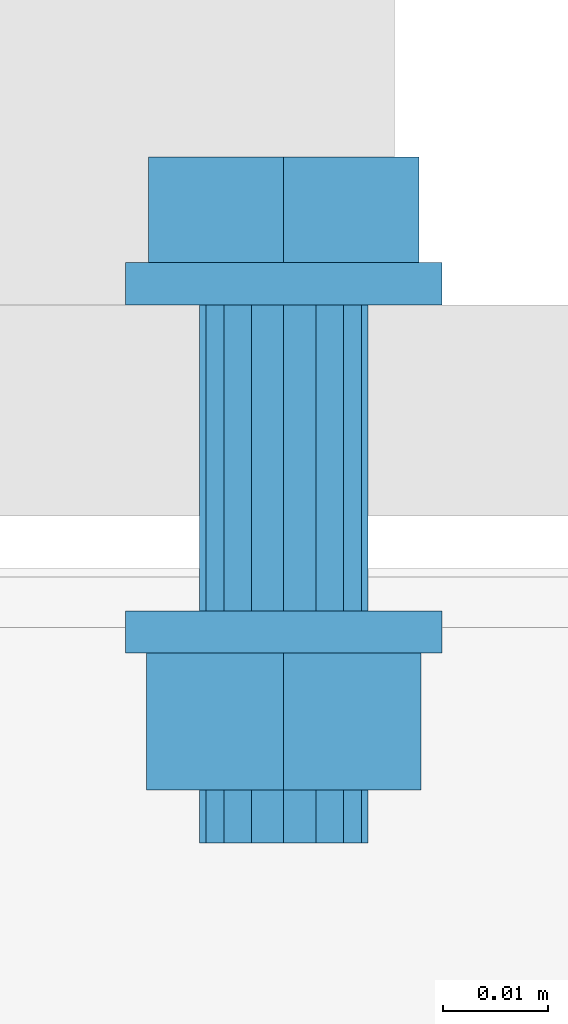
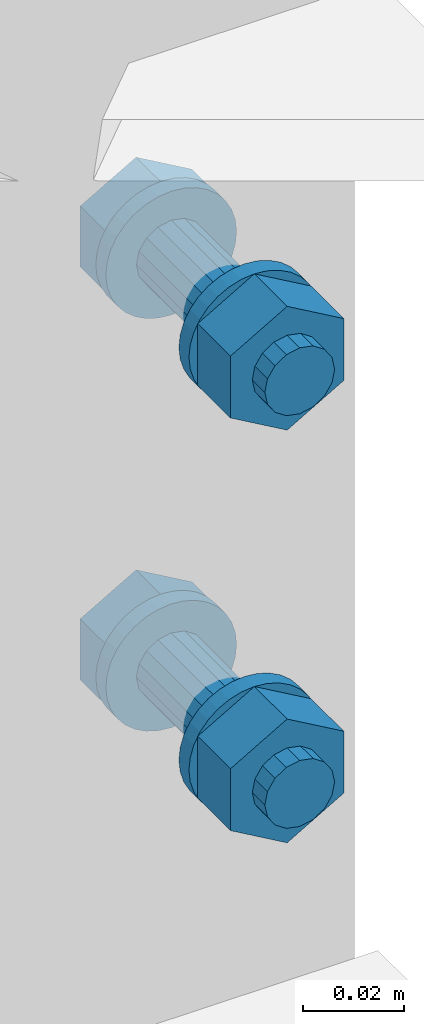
# One storey, part 9 of 21: 2 mechanical fasteners.
"""IFC4X3_ADD2 building model written with IfcOpenShell, lengths in millimetres."""

from ifc_helpers import new_model, entity, si_unit, converted_unit, derived_unit, direction, frame, origin, place, context, project, spatial, faceted_brep, element, save


model = new_model("IFC4X3_ADD2")

# Units and contexts
model_context = context("Model", 3, precision=0.01, world=origin(), true_north=direction((6.123233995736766e-17, 1.0)))
plan_context = context("Plan", 3, precision=0.01, world=origin(), true_north=direction((6.123233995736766e-17, 1.0)))
ifc_project = project(units=[si_unit("LENGTHUNIT", "METRE", prefix="MILLI"), converted_unit("PLANEANGLEUNIT", "DEGREE", entity("IfcPlaneAngleMeasure", 0.017453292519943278), si_unit("PLANEANGLEUNIT", "RADIAN"), dimensions=[0, 0, 0, 0, 0, 0, 0]), si_unit("AREAUNIT", "SQUARE_METRE"), si_unit("VOLUMEUNIT", "CUBIC_METRE"), derived_unit("THERMALTRANSMITTANCEUNIT", [(si_unit("MASSUNIT", "GRAM", prefix="KILO"), 1), (si_unit("THERMODYNAMICTEMPERATUREUNIT", "KELVIN"), -1), (si_unit("TIMEUNIT", "SECOND"), -3)]), derived_unit("USERDEFINED", [(si_unit("MASSUNIT", "GRAM", prefix="KILO"), 1), (si_unit("THERMODYNAMICTEMPERATUREUNIT", "KELVIN"), -1), (si_unit("TIMEUNIT", "SECOND"), -2)]), derived_unit("THERMALRESISTANCEUNIT", [(si_unit("MASSUNIT", "GRAM", prefix="KILO"), -1), (si_unit("TIMEUNIT", "SECOND"), 3), (si_unit("THERMODYNAMICTEMPERATUREUNIT", "KELVIN"), 1)]), si_unit("MASSUNIT", "GRAM", prefix="KILO"), derived_unit("MOMENTOFINERTIAUNIT", [(si_unit("LENGTHUNIT", "METRE"), 4)]), derived_unit("LINEARFORCEUNIT", [(si_unit("MASSUNIT", "GRAM", prefix="KILO"), 1), (si_unit("TIMEUNIT", "SECOND"), -2)]), derived_unit("WARPINGCONSTANTUNIT", [(si_unit("LENGTHUNIT", "METRE"), 6)]), si_unit("PRESSUREUNIT", "PASCAL"), derived_unit("MASSDENSITYUNIT", [(si_unit("MASSUNIT", "GRAM", prefix="KILO"), 1), (si_unit("LENGTHUNIT", "METRE"), -3)]), derived_unit("MODULUSOFELASTICITYUNIT", [(si_unit("MASSUNIT", "GRAM", prefix="KILO"), 1), (si_unit("TIMEUNIT", "SECOND"), -2), (si_unit("LENGTHUNIT", "METRE"), -1)]), derived_unit("THERMALEXPANSIONCOEFFICIENTUNIT", [(si_unit("THERMODYNAMICTEMPERATUREUNIT", "KELVIN"), -1)]), derived_unit("VAPORPERMEABILITYUNIT", [(si_unit("LENGTHUNIT", "METRE"), -1), (si_unit("TIMEUNIT", "SECOND"), 1)]), derived_unit("USERDEFINED", [(si_unit("MASSUNIT", "GRAM", prefix="KILO"), 1), (si_unit("TIMEUNIT", "SECOND"), -3), (si_unit("LENGTHUNIT", "METRE"), 3), (si_unit("ELECTRICCURRENTUNIT", "AMPERE"), -2)]), derived_unit("SPECIFICHEATCAPACITYUNIT", [(si_unit("THERMODYNAMICTEMPERATUREUNIT", "KELVIN"), -1), (si_unit("TIMEUNIT", "SECOND"), -2), (si_unit("LENGTHUNIT", "METRE"), 2)]), derived_unit("THERMALCONDUCTANCEUNIT", [(si_unit("MASSUNIT", "GRAM", prefix="KILO"), 1), (si_unit("THERMODYNAMICTEMPERATUREUNIT", "KELVIN"), -1), (si_unit("TIMEUNIT", "SECOND"), -3), (si_unit("LENGTHUNIT", "METRE"), 1)])], contexts=[model_context, plan_context])

# Site, building, storey
site_placement = place(None, origin())
site = spatial("IfcSite", under=ifc_project, at=site_placement, Name="Default", CompositionType="ELEMENT")
building_placement = place(site_placement, origin())
building = spatial("IfcBuilding", under=site, at=building_placement, Name="Complex structure", CompositionType="ELEMENT")
storey_placement = place(building_placement, frame((0.0, 0.0, 3000.0)))
storey = spatial("IfcBuildingStorey", under=building, at=storey_placement, Name="Level 01", CompositionType="ELEMENT", Elevation=3000.0)

# Mechanical fasteners
mechanical_fastener_1_placement = place(storey_placement, frame((0.0, 0.0, -3000.0)))
element("IfcMechanicalFastener", 1, at=mechanical_fastener_1_placement, inside=storey, ObjectType="Bolt#7", NominalDiameter=16.0, NominalLength=55.0, context=model_context, shape_type="Brep", body=[
    faceted_brep([(-13080.721550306, -1182.866703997, 3703.0), (-13080.721550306, -1186.866703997, 3703.0), (-13081.0097711, -1186.866703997, 3700.07364517), (-13081.0097711, -1182.866703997, 3700.07364517), (-13081.863357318, -1186.866703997, 3697.259748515), (-13081.863357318, -1182.866703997, 3697.259748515), (-13083.249506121, -1186.866703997, 3694.666446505), (-13083.249506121, -1182.866703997, 3694.666446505), (-13085.114948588, -1186.866703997, 3692.393398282), (-13085.114948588, -1182.866703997, 3692.393398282), (-13087.387996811, -1186.866703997, 3690.527955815), (-13087.387996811, -1182.866703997, 3690.527955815), (-13089.98129882, -1186.866703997, 3689.141807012), (-13089.98129882, -1182.866703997, 3689.141807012), (-13092.795195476, -1186.866703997, 3688.288220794), (-13092.795195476, -1182.866703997, 3688.288220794), (-13095.721550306, -1186.866703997, 3688.0), (-13095.721550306, -1182.866703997, 3688.0), (-13098.647905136, -1186.866703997, 3688.288220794), (-13098.647905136, -1182.866703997, 3688.288220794), (-13101.461801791, -1186.866703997, 3689.141807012), (-13101.461801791, -1182.866703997, 3689.141807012), (-13104.055103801, -1186.866703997, 3690.527955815), (-13104.055103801, -1182.866703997, 3690.527955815), (-13106.328152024, -1186.866703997, 3692.393398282), (-13106.328152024, -1182.866703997, 3692.393398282), (-13108.19359449, -1186.866703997, 3694.666446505), (-13108.19359449, -1182.866703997, 3694.666446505), (-13109.579743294, -1186.866703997, 3697.259748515), (-13109.579743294, -1182.866703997, 3697.259748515), (-13110.433329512, -1186.866703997, 3700.07364517), (-13110.433329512, -1182.866703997, 3700.07364517), (-13110.721550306, -1186.866703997, 3703.0), (-13110.721550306, -1182.866703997, 3703.0), (-13110.433329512, -1186.866703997, 3705.92635483), (-13110.433329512, -1182.866703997, 3705.92635483), (-13109.579743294, -1186.866703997, 3708.740251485), (-13109.579743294, -1182.866703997, 3708.740251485), (-13108.19359449, -1186.866703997, 3711.333553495), (-13108.19359449, -1182.866703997, 3711.333553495), (-13106.328152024, -1186.866703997, 3713.606601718), (-13106.328152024, -1182.866703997, 3713.606601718), (-13104.055103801, -1186.866703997, 3715.472044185), (-13104.055103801, -1182.866703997, 3715.472044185), (-13101.461801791, -1186.866703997, 3716.858192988), (-13101.461801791, -1182.866703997, 3716.858192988), (-13098.647905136, -1186.866703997, 3717.711779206), (-13098.647905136, -1182.866703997, 3717.711779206), (-13095.721550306, -1186.866703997, 3718.0), (-13095.721550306, -1182.866703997, 3718.0), (-13092.795195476, -1186.866703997, 3717.711779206), (-13092.795195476, -1182.866703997, 3717.711779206), (-13089.98129882, -1186.866703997, 3716.858192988), (-13089.98129882, -1182.866703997, 3716.858192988), (-13087.387996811, -1186.866703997, 3715.472044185), (-13087.387996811, -1182.866703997, 3715.472044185), (-13085.114948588, -1186.866703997, 3713.606601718), (-13085.114948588, -1182.866703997, 3713.606601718), (-13083.249506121, -1186.866703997, 3711.333553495), (-13083.249506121, -1182.866703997, 3711.333553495), (-13081.863357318, -1186.866703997, 3708.740251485), (-13081.863357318, -1182.866703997, 3708.740251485), (-13081.0097711, -1186.866703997, 3705.92635483), (-13081.0097711, -1182.866703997, 3705.92635483)], [[[0, 1, 2, 3]], [[3, 2, 4, 5]], [[5, 4, 6, 7]], [[7, 6, 8, 9]], [[9, 8, 10, 11]], [[11, 10, 12, 13]], [[13, 12, 14, 15]], [[15, 14, 16, 17]], [[17, 16, 18, 19]], [[19, 18, 20, 21]], [[21, 20, 22, 23]], [[23, 22, 24, 25]], [[25, 24, 26, 27]], [[27, 26, 28, 29]], [[29, 28, 30, 31]], [[31, 30, 32, 33]], [[33, 32, 34, 35]], [[35, 34, 36, 37]], [[37, 36, 38, 39]], [[39, 38, 40, 41]], [[41, 40, 42, 43]], [[43, 42, 44, 45]], [[45, 44, 46, 47]], [[47, 46, 48, 49]], [[49, 48, 50, 51]], [[51, 50, 52, 53]], [[53, 52, 54, 55]], [[55, 54, 56, 57]], [[57, 56, 58, 59]], [[59, 58, 60, 61]], [[61, 60, 62, 63]], [[63, 62, 1, 0]], [[0, 3, 5, 7, 9, 11, 13, 15, 17, 19, 21, 23, 25, 27, 29, 31, 33, 35, 37, 39, 41, 43, 45, 47, 49, 51, 53, 55, 57, 59, 61, 63]], [[1, 62, 60, 58, 56, 54, 52, 50, 48, 46, 44, 42, 40, 38, 36, 34, 32, 30, 28, 26, 24, 22, 20, 18, 16, 14, 12, 10, 8, 6, 4, 2]]]),
    faceted_brep([(-13108.521405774, -1182.866703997, 3695.61), (-13108.521405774, -1172.866703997, 3695.61), (-13095.721550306, -1172.866703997, 3688.22), (-13095.721550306, -1182.866703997, 3688.22), (-13082.921694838, -1172.866703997, 3695.61), (-13082.921694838, -1182.866703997, 3695.61), (-13082.921694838, -1172.866703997, 3710.39), (-13082.921694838, -1182.866703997, 3710.39), (-13095.721550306, -1172.866703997, 3717.78), (-13095.721550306, -1182.866703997, 3717.78), (-13108.521405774, -1172.866703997, 3710.39), (-13108.521405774, -1182.866703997, 3710.39)], [[[0, 1, 2, 3]], [[3, 2, 4, 5]], [[5, 4, 6, 7]], [[7, 6, 8, 9]], [[9, 8, 10, 11]], [[11, 10, 1, 0]], [[4, 2, 1, 10, 8, 6]], [[0, 3, 5, 7, 9, 11]]]),
    faceted_brep([(-13087.721550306, -1186.866703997, 3703.0), (-13087.721550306, -1215.866703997, 3703.0), (-13088.330514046, -1215.866703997, 3699.938532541), (-13088.330514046, -1186.866703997, 3699.938532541), (-13090.064696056, -1215.866703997, 3697.343145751), (-13090.064696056, -1186.866703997, 3697.343145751), (-13092.660082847, -1215.866703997, 3695.60896374), (-13092.660082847, -1186.866703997, 3695.60896374), (-13095.721550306, -1215.866703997, 3695.0), (-13095.721550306, -1186.866703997, 3695.0), (-13098.783017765, -1215.866703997, 3695.60896374), (-13098.783017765, -1186.866703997, 3695.60896374), (-13101.378404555, -1215.866703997, 3697.343145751), (-13101.378404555, -1186.866703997, 3697.343145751), (-13103.112586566, -1215.866703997, 3699.938532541), (-13103.112586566, -1186.866703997, 3699.938532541), (-13103.721550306, -1215.866703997, 3703.0), (-13103.721550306, -1186.866703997, 3703.0), (-13103.112586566, -1215.866703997, 3706.061467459), (-13103.112586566, -1186.866703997, 3706.061467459), (-13101.378404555, -1215.866703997, 3708.656854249), (-13101.378404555, -1186.866703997, 3708.656854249), (-13098.783017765, -1215.866703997, 3710.39103626), (-13098.783017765, -1186.866703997, 3710.39103626), (-13095.721550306, -1215.866703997, 3711.0), (-13095.721550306, -1186.866703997, 3711.0), (-13092.660082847, -1215.866703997, 3710.39103626), (-13092.660082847, -1186.866703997, 3710.39103626), (-13090.064696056, -1215.866703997, 3708.656854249), (-13090.064696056, -1186.866703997, 3708.656854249), (-13088.330514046, -1215.866703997, 3706.061467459), (-13088.330514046, -1186.866703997, 3706.061467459)], [[[0, 1, 2, 3]], [[3, 2, 4, 5]], [[5, 4, 6, 7]], [[7, 6, 8, 9]], [[9, 8, 10, 11]], [[11, 10, 12, 13]], [[13, 12, 14, 15]], [[15, 14, 16, 17]], [[17, 16, 18, 19]], [[19, 18, 20, 21]], [[21, 20, 22, 23]], [[23, 22, 24, 25]], [[25, 24, 26, 27]], [[27, 26, 28, 29]], [[29, 28, 30, 31]], [[31, 30, 1, 0]], [[0, 3, 5, 7, 9, 11, 13, 15, 17, 19, 21, 23, 25, 27, 29, 31]], [[1, 30, 28, 26, 24, 22, 20, 18, 16, 14, 12, 10, 8, 6, 4, 2]]]),
    faceted_brep([(-13080.721550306, -1215.866703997, 3703.0), (-13080.721550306, -1219.866703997, 3703.0), (-13081.0097711, -1219.866703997, 3700.07364517), (-13081.0097711, -1215.866703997, 3700.07364517), (-13081.863357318, -1219.866703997, 3697.259748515), (-13081.863357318, -1215.866703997, 3697.259748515), (-13083.249506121, -1219.866703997, 3694.666446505), (-13083.249506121, -1215.866703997, 3694.666446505), (-13085.114948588, -1219.866703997, 3692.393398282), (-13085.114948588, -1215.866703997, 3692.393398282), (-13087.387996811, -1219.866703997, 3690.527955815), (-13087.387996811, -1215.866703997, 3690.527955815), (-13089.98129882, -1219.866703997, 3689.141807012), (-13089.98129882, -1215.866703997, 3689.141807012), (-13092.795195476, -1219.866703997, 3688.288220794), (-13092.795195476, -1215.866703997, 3688.288220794), (-13095.721550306, -1219.866703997, 3688.0), (-13095.721550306, -1215.866703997, 3688.0), (-13098.647905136, -1219.866703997, 3688.288220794), (-13098.647905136, -1215.866703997, 3688.288220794), (-13101.461801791, -1219.866703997, 3689.141807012), (-13101.461801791, -1215.866703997, 3689.141807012), (-13104.055103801, -1219.866703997, 3690.527955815), (-13104.055103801, -1215.866703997, 3690.527955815), (-13106.328152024, -1219.866703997, 3692.393398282), (-13106.328152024, -1215.866703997, 3692.393398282), (-13108.19359449, -1219.866703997, 3694.666446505), (-13108.19359449, -1215.866703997, 3694.666446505), (-13109.579743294, -1219.866703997, 3697.259748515), (-13109.579743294, -1215.866703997, 3697.259748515), (-13110.433329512, -1219.866703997, 3700.07364517), (-13110.433329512, -1215.866703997, 3700.07364517), (-13110.721550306, -1219.866703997, 3703.0), (-13110.721550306, -1215.866703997, 3703.0), (-13110.433329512, -1219.866703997, 3705.92635483), (-13110.433329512, -1215.866703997, 3705.92635483), (-13109.579743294, -1219.866703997, 3708.740251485), (-13109.579743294, -1215.866703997, 3708.740251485), (-13108.19359449, -1219.866703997, 3711.333553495), (-13108.19359449, -1215.866703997, 3711.333553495), (-13106.328152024, -1219.866703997, 3713.606601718), (-13106.328152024, -1215.866703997, 3713.606601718), (-13104.055103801, -1219.866703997, 3715.472044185), (-13104.055103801, -1215.866703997, 3715.472044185), (-13101.461801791, -1219.866703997, 3716.858192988), (-13101.461801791, -1215.866703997, 3716.858192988), (-13098.647905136, -1219.866703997, 3717.711779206), (-13098.647905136, -1215.866703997, 3717.711779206), (-13095.721550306, -1219.866703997, 3718.0), (-13095.721550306, -1215.866703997, 3718.0), (-13092.795195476, -1219.866703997, 3717.711779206), (-13092.795195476, -1215.866703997, 3717.711779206), (-13089.98129882, -1219.866703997, 3716.858192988), (-13089.98129882, -1215.866703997, 3716.858192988), (-13087.387996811, -1219.866703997, 3715.472044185), (-13087.387996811, -1215.866703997, 3715.472044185), (-13085.114948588, -1219.866703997, 3713.606601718), (-13085.114948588, -1215.866703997, 3713.606601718), (-13083.249506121, -1219.866703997, 3711.333553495), (-13083.249506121, -1215.866703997, 3711.333553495), (-13081.863357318, -1219.866703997, 3708.740251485), (-13081.863357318, -1215.866703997, 3708.740251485), (-13081.0097711, -1219.866703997, 3705.92635483), (-13081.0097711, -1215.866703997, 3705.92635483)], [[[0, 1, 2, 3]], [[3, 2, 4, 5]], [[5, 4, 6, 7]], [[7, 6, 8, 9]], [[9, 8, 10, 11]], [[11, 10, 12, 13]], [[13, 12, 14, 15]], [[15, 14, 16, 17]], [[17, 16, 18, 19]], [[19, 18, 20, 21]], [[21, 20, 22, 23]], [[23, 22, 24, 25]], [[25, 24, 26, 27]], [[27, 26, 28, 29]], [[29, 28, 30, 31]], [[31, 30, 32, 33]], [[33, 32, 34, 35]], [[35, 34, 36, 37]], [[37, 36, 38, 39]], [[39, 38, 40, 41]], [[41, 40, 42, 43]], [[43, 42, 44, 45]], [[45, 44, 46, 47]], [[47, 46, 48, 49]], [[49, 48, 50, 51]], [[51, 50, 52, 53]], [[53, 52, 54, 55]], [[55, 54, 56, 57]], [[57, 56, 58, 59]], [[59, 58, 60, 61]], [[61, 60, 62, 63]], [[63, 62, 1, 0]], [[0, 3, 5, 7, 9, 11, 13, 15, 17, 19, 21, 23, 25, 27, 29, 31, 33, 35, 37, 39, 41, 43, 45, 47, 49, 51, 53, 55, 57, 59, 61, 63]], [[1, 62, 60, 58, 56, 54, 52, 50, 48, 46, 44, 42, 40, 38, 36, 34, 32, 30, 28, 26, 24, 22, 20, 18, 16, 14, 12, 10, 8, 6, 4, 2]]]),
    faceted_brep([(-13108.711931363, -1232.866703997, 3695.5), (-13108.711931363, -1219.866703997, 3695.5), (-13095.721550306, -1219.866703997, 3688.0), (-13095.721550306, -1232.866703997, 3688.0), (-13082.731169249, -1219.866703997, 3695.5), (-13082.731169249, -1232.866703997, 3695.5), (-13082.731169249, -1219.866703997, 3710.5), (-13082.731169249, -1232.866703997, 3710.5), (-13095.721550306, -1219.866703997, 3718.0), (-13095.721550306, -1232.866703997, 3718.0), (-13108.711931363, -1219.866703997, 3710.5), (-13108.711931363, -1232.866703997, 3710.5)], [[[0, 1, 2, 3]], [[3, 2, 4, 5]], [[5, 4, 6, 7]], [[7, 6, 8, 9]], [[9, 8, 10, 11]], [[11, 10, 1, 0]], [[4, 2, 1, 10, 8, 6]], [[0, 3, 5, 7, 9, 11]]]),
    faceted_brep([(-13087.721550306, -1232.866703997, 3703.0), (-13087.721550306, -1237.866703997, 3703.0), (-13088.330514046, -1237.866703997, 3699.938532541), (-13088.330514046, -1232.866703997, 3699.938532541), (-13090.064696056, -1237.866703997, 3697.343145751), (-13090.064696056, -1232.866703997, 3697.343145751), (-13092.660082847, -1237.866703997, 3695.60896374), (-13092.660082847, -1232.866703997, 3695.60896374), (-13095.721550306, -1237.866703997, 3695.0), (-13095.721550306, -1232.866703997, 3695.0), (-13098.783017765, -1237.866703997, 3695.60896374), (-13098.783017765, -1232.866703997, 3695.60896374), (-13101.378404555, -1237.866703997, 3697.343145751), (-13101.378404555, -1232.866703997, 3697.343145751), (-13103.112586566, -1237.866703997, 3699.938532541), (-13103.112586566, -1232.866703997, 3699.938532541), (-13103.721550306, -1237.866703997, 3703.0), (-13103.721550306, -1232.866703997, 3703.0), (-13103.112586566, -1237.866703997, 3706.061467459), (-13103.112586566, -1232.866703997, 3706.061467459), (-13101.378404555, -1237.866703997, 3708.656854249), (-13101.378404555, -1232.866703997, 3708.656854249), (-13098.783017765, -1237.866703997, 3710.39103626), (-13098.783017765, -1232.866703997, 3710.39103626), (-13095.721550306, -1237.866703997, 3711.0), (-13095.721550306, -1232.866703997, 3711.0), (-13092.660082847, -1237.866703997, 3710.39103626), (-13092.660082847, -1232.866703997, 3710.39103626), (-13090.064696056, -1237.866703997, 3708.656854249), (-13090.064696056, -1232.866703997, 3708.656854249), (-13088.330514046, -1237.866703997, 3706.061467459), (-13088.330514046, -1232.866703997, 3706.061467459)], [[[0, 1, 2, 3]], [[3, 2, 4, 5]], [[5, 4, 6, 7]], [[7, 6, 8, 9]], [[9, 8, 10, 11]], [[11, 10, 12, 13]], [[13, 12, 14, 15]], [[15, 14, 16, 17]], [[17, 16, 18, 19]], [[19, 18, 20, 21]], [[21, 20, 22, 23]], [[23, 22, 24, 25]], [[25, 24, 26, 27]], [[27, 26, 28, 29]], [[29, 28, 30, 31]], [[31, 30, 1, 0]], [[0, 3, 5, 7, 9, 11, 13, 15, 17, 19, 21, 23, 25, 27, 29, 31]], [[1, 30, 28, 26, 24, 22, 20, 18, 16, 14, 12, 10, 8, 6, 4, 2]]]),
])
mechanical_fastener_2_placement = place(storey_placement, frame((0.0, 0.0, -3000.0)))
element("IfcMechanicalFastener", 2, at=mechanical_fastener_2_placement, inside=storey, ObjectType="Bolt#8", NominalDiameter=16.0, NominalLength=55.0, context=model_context, shape_type="Brep", body=[
    faceted_brep([(-13080.721550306, -1182.866703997, 3603.0), (-13080.721550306, -1186.866703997, 3603.0), (-13081.0097711, -1186.866703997, 3600.07364517), (-13081.0097711, -1182.866703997, 3600.07364517), (-13081.863357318, -1186.866703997, 3597.259748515), (-13081.863357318, -1182.866703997, 3597.259748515), (-13083.249506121, -1186.866703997, 3594.666446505), (-13083.249506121, -1182.866703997, 3594.666446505), (-13085.114948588, -1186.866703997, 3592.393398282), (-13085.114948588, -1182.866703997, 3592.393398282), (-13087.387996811, -1186.866703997, 3590.527955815), (-13087.387996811, -1182.866703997, 3590.527955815), (-13089.98129882, -1186.866703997, 3589.141807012), (-13089.98129882, -1182.866703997, 3589.141807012), (-13092.795195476, -1186.866703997, 3588.288220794), (-13092.795195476, -1182.866703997, 3588.288220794), (-13095.721550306, -1186.866703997, 3588.0), (-13095.721550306, -1182.866703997, 3588.0), (-13098.647905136, -1186.866703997, 3588.288220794), (-13098.647905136, -1182.866703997, 3588.288220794), (-13101.461801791, -1186.866703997, 3589.141807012), (-13101.461801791, -1182.866703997, 3589.141807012), (-13104.055103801, -1186.866703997, 3590.527955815), (-13104.055103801, -1182.866703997, 3590.527955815), (-13106.328152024, -1186.866703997, 3592.393398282), (-13106.328152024, -1182.866703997, 3592.393398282), (-13108.19359449, -1186.866703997, 3594.666446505), (-13108.19359449, -1182.866703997, 3594.666446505), (-13109.579743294, -1186.866703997, 3597.259748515), (-13109.579743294, -1182.866703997, 3597.259748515), (-13110.433329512, -1186.866703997, 3600.07364517), (-13110.433329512, -1182.866703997, 3600.07364517), (-13110.721550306, -1186.866703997, 3603.0), (-13110.721550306, -1182.866703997, 3603.0), (-13110.433329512, -1186.866703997, 3605.92635483), (-13110.433329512, -1182.866703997, 3605.92635483), (-13109.579743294, -1186.866703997, 3608.740251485), (-13109.579743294, -1182.866703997, 3608.740251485), (-13108.19359449, -1186.866703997, 3611.333553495), (-13108.19359449, -1182.866703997, 3611.333553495), (-13106.328152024, -1186.866703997, 3613.606601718), (-13106.328152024, -1182.866703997, 3613.606601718), (-13104.055103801, -1186.866703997, 3615.472044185), (-13104.055103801, -1182.866703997, 3615.472044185), (-13101.461801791, -1186.866703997, 3616.858192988), (-13101.461801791, -1182.866703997, 3616.858192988), (-13098.647905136, -1186.866703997, 3617.711779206), (-13098.647905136, -1182.866703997, 3617.711779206), (-13095.721550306, -1186.866703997, 3618.0), (-13095.721550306, -1182.866703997, 3618.0), (-13092.795195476, -1186.866703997, 3617.711779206), (-13092.795195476, -1182.866703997, 3617.711779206), (-13089.98129882, -1186.866703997, 3616.858192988), (-13089.98129882, -1182.866703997, 3616.858192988), (-13087.387996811, -1186.866703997, 3615.472044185), (-13087.387996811, -1182.866703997, 3615.472044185), (-13085.114948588, -1186.866703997, 3613.606601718), (-13085.114948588, -1182.866703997, 3613.606601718), (-13083.249506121, -1186.866703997, 3611.333553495), (-13083.249506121, -1182.866703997, 3611.333553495), (-13081.863357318, -1186.866703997, 3608.740251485), (-13081.863357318, -1182.866703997, 3608.740251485), (-13081.0097711, -1186.866703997, 3605.92635483), (-13081.0097711, -1182.866703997, 3605.92635483)], [[[0, 1, 2, 3]], [[3, 2, 4, 5]], [[5, 4, 6, 7]], [[7, 6, 8, 9]], [[9, 8, 10, 11]], [[11, 10, 12, 13]], [[13, 12, 14, 15]], [[15, 14, 16, 17]], [[17, 16, 18, 19]], [[19, 18, 20, 21]], [[21, 20, 22, 23]], [[23, 22, 24, 25]], [[25, 24, 26, 27]], [[27, 26, 28, 29]], [[29, 28, 30, 31]], [[31, 30, 32, 33]], [[33, 32, 34, 35]], [[35, 34, 36, 37]], [[37, 36, 38, 39]], [[39, 38, 40, 41]], [[41, 40, 42, 43]], [[43, 42, 44, 45]], [[45, 44, 46, 47]], [[47, 46, 48, 49]], [[49, 48, 50, 51]], [[51, 50, 52, 53]], [[53, 52, 54, 55]], [[55, 54, 56, 57]], [[57, 56, 58, 59]], [[59, 58, 60, 61]], [[61, 60, 62, 63]], [[63, 62, 1, 0]], [[0, 3, 5, 7, 9, 11, 13, 15, 17, 19, 21, 23, 25, 27, 29, 31, 33, 35, 37, 39, 41, 43, 45, 47, 49, 51, 53, 55, 57, 59, 61, 63]], [[1, 62, 60, 58, 56, 54, 52, 50, 48, 46, 44, 42, 40, 38, 36, 34, 32, 30, 28, 26, 24, 22, 20, 18, 16, 14, 12, 10, 8, 6, 4, 2]]]),
    faceted_brep([(-13108.521405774, -1182.866703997, 3595.61), (-13108.521405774, -1172.866703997, 3595.61), (-13095.721550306, -1172.866703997, 3588.22), (-13095.721550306, -1182.866703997, 3588.22), (-13082.921694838, -1172.866703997, 3595.61), (-13082.921694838, -1182.866703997, 3595.61), (-13082.921694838, -1172.866703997, 3610.39), (-13082.921694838, -1182.866703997, 3610.39), (-13095.721550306, -1172.866703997, 3617.78), (-13095.721550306, -1182.866703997, 3617.78), (-13108.521405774, -1172.866703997, 3610.39), (-13108.521405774, -1182.866703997, 3610.39)], [[[0, 1, 2, 3]], [[3, 2, 4, 5]], [[5, 4, 6, 7]], [[7, 6, 8, 9]], [[9, 8, 10, 11]], [[11, 10, 1, 0]], [[4, 2, 1, 10, 8, 6]], [[0, 3, 5, 7, 9, 11]]]),
    faceted_brep([(-13087.721550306, -1186.866703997, 3603.0), (-13087.721550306, -1215.866703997, 3603.0), (-13088.330514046, -1215.866703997, 3599.938532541), (-13088.330514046, -1186.866703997, 3599.938532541), (-13090.064696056, -1215.866703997, 3597.343145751), (-13090.064696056, -1186.866703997, 3597.343145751), (-13092.660082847, -1215.866703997, 3595.60896374), (-13092.660082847, -1186.866703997, 3595.60896374), (-13095.721550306, -1215.866703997, 3595.0), (-13095.721550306, -1186.866703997, 3595.0), (-13098.783017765, -1215.866703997, 3595.60896374), (-13098.783017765, -1186.866703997, 3595.60896374), (-13101.378404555, -1215.866703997, 3597.343145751), (-13101.378404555, -1186.866703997, 3597.343145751), (-13103.112586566, -1215.866703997, 3599.938532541), (-13103.112586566, -1186.866703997, 3599.938532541), (-13103.721550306, -1215.866703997, 3603.0), (-13103.721550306, -1186.866703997, 3603.0), (-13103.112586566, -1215.866703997, 3606.061467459), (-13103.112586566, -1186.866703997, 3606.061467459), (-13101.378404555, -1215.866703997, 3608.656854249), (-13101.378404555, -1186.866703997, 3608.656854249), (-13098.783017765, -1215.866703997, 3610.39103626), (-13098.783017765, -1186.866703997, 3610.39103626), (-13095.721550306, -1215.866703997, 3611.0), (-13095.721550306, -1186.866703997, 3611.0), (-13092.660082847, -1215.866703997, 3610.39103626), (-13092.660082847, -1186.866703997, 3610.39103626), (-13090.064696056, -1215.866703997, 3608.656854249), (-13090.064696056, -1186.866703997, 3608.656854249), (-13088.330514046, -1215.866703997, 3606.061467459), (-13088.330514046, -1186.866703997, 3606.061467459)], [[[0, 1, 2, 3]], [[3, 2, 4, 5]], [[5, 4, 6, 7]], [[7, 6, 8, 9]], [[9, 8, 10, 11]], [[11, 10, 12, 13]], [[13, 12, 14, 15]], [[15, 14, 16, 17]], [[17, 16, 18, 19]], [[19, 18, 20, 21]], [[21, 20, 22, 23]], [[23, 22, 24, 25]], [[25, 24, 26, 27]], [[27, 26, 28, 29]], [[29, 28, 30, 31]], [[31, 30, 1, 0]], [[0, 3, 5, 7, 9, 11, 13, 15, 17, 19, 21, 23, 25, 27, 29, 31]], [[1, 30, 28, 26, 24, 22, 20, 18, 16, 14, 12, 10, 8, 6, 4, 2]]]),
    faceted_brep([(-13080.721550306, -1215.866703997, 3603.0), (-13080.721550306, -1219.866703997, 3603.0), (-13081.0097711, -1219.866703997, 3600.07364517), (-13081.0097711, -1215.866703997, 3600.07364517), (-13081.863357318, -1219.866703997, 3597.259748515), (-13081.863357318, -1215.866703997, 3597.259748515), (-13083.249506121, -1219.866703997, 3594.666446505), (-13083.249506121, -1215.866703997, 3594.666446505), (-13085.114948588, -1219.866703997, 3592.393398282), (-13085.114948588, -1215.866703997, 3592.393398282), (-13087.387996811, -1219.866703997, 3590.527955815), (-13087.387996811, -1215.866703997, 3590.527955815), (-13089.98129882, -1219.866703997, 3589.141807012), (-13089.98129882, -1215.866703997, 3589.141807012), (-13092.795195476, -1219.866703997, 3588.288220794), (-13092.795195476, -1215.866703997, 3588.288220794), (-13095.721550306, -1219.866703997, 3588.0), (-13095.721550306, -1215.866703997, 3588.0), (-13098.647905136, -1219.866703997, 3588.288220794), (-13098.647905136, -1215.866703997, 3588.288220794), (-13101.461801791, -1219.866703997, 3589.141807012), (-13101.461801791, -1215.866703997, 3589.141807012), (-13104.055103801, -1219.866703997, 3590.527955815), (-13104.055103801, -1215.866703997, 3590.527955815), (-13106.328152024, -1219.866703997, 3592.393398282), (-13106.328152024, -1215.866703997, 3592.393398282), (-13108.19359449, -1219.866703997, 3594.666446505), (-13108.19359449, -1215.866703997, 3594.666446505), (-13109.579743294, -1219.866703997, 3597.259748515), (-13109.579743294, -1215.866703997, 3597.259748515), (-13110.433329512, -1219.866703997, 3600.07364517), (-13110.433329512, -1215.866703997, 3600.07364517), (-13110.721550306, -1219.866703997, 3603.0), (-13110.721550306, -1215.866703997, 3603.0), (-13110.433329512, -1219.866703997, 3605.92635483), (-13110.433329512, -1215.866703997, 3605.92635483), (-13109.579743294, -1219.866703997, 3608.740251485), (-13109.579743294, -1215.866703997, 3608.740251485), (-13108.19359449, -1219.866703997, 3611.333553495), (-13108.19359449, -1215.866703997, 3611.333553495), (-13106.328152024, -1219.866703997, 3613.606601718), (-13106.328152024, -1215.866703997, 3613.606601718), (-13104.055103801, -1219.866703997, 3615.472044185), (-13104.055103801, -1215.866703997, 3615.472044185), (-13101.461801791, -1219.866703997, 3616.858192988), (-13101.461801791, -1215.866703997, 3616.858192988), (-13098.647905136, -1219.866703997, 3617.711779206), (-13098.647905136, -1215.866703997, 3617.711779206), (-13095.721550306, -1219.866703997, 3618.0), (-13095.721550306, -1215.866703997, 3618.0), (-13092.795195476, -1219.866703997, 3617.711779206), (-13092.795195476, -1215.866703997, 3617.711779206), (-13089.98129882, -1219.866703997, 3616.858192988), (-13089.98129882, -1215.866703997, 3616.858192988), (-13087.387996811, -1219.866703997, 3615.472044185), (-13087.387996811, -1215.866703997, 3615.472044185), (-13085.114948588, -1219.866703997, 3613.606601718), (-13085.114948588, -1215.866703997, 3613.606601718), (-13083.249506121, -1219.866703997, 3611.333553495), (-13083.249506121, -1215.866703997, 3611.333553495), (-13081.863357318, -1219.866703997, 3608.740251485), (-13081.863357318, -1215.866703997, 3608.740251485), (-13081.0097711, -1219.866703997, 3605.92635483), (-13081.0097711, -1215.866703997, 3605.92635483)], [[[0, 1, 2, 3]], [[3, 2, 4, 5]], [[5, 4, 6, 7]], [[7, 6, 8, 9]], [[9, 8, 10, 11]], [[11, 10, 12, 13]], [[13, 12, 14, 15]], [[15, 14, 16, 17]], [[17, 16, 18, 19]], [[19, 18, 20, 21]], [[21, 20, 22, 23]], [[23, 22, 24, 25]], [[25, 24, 26, 27]], [[27, 26, 28, 29]], [[29, 28, 30, 31]], [[31, 30, 32, 33]], [[33, 32, 34, 35]], [[35, 34, 36, 37]], [[37, 36, 38, 39]], [[39, 38, 40, 41]], [[41, 40, 42, 43]], [[43, 42, 44, 45]], [[45, 44, 46, 47]], [[47, 46, 48, 49]], [[49, 48, 50, 51]], [[51, 50, 52, 53]], [[53, 52, 54, 55]], [[55, 54, 56, 57]], [[57, 56, 58, 59]], [[59, 58, 60, 61]], [[61, 60, 62, 63]], [[63, 62, 1, 0]], [[0, 3, 5, 7, 9, 11, 13, 15, 17, 19, 21, 23, 25, 27, 29, 31, 33, 35, 37, 39, 41, 43, 45, 47, 49, 51, 53, 55, 57, 59, 61, 63]], [[1, 62, 60, 58, 56, 54, 52, 50, 48, 46, 44, 42, 40, 38, 36, 34, 32, 30, 28, 26, 24, 22, 20, 18, 16, 14, 12, 10, 8, 6, 4, 2]]]),
    faceted_brep([(-13108.711931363, -1232.866703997, 3595.5), (-13108.711931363, -1219.866703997, 3595.5), (-13095.721550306, -1219.866703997, 3588.0), (-13095.721550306, -1232.866703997, 3588.0), (-13082.731169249, -1219.866703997, 3595.5), (-13082.731169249, -1232.866703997, 3595.5), (-13082.731169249, -1219.866703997, 3610.5), (-13082.731169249, -1232.866703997, 3610.5), (-13095.721550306, -1219.866703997, 3618.0), (-13095.721550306, -1232.866703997, 3618.0), (-13108.711931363, -1219.866703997, 3610.5), (-13108.711931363, -1232.866703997, 3610.5)], [[[0, 1, 2, 3]], [[3, 2, 4, 5]], [[5, 4, 6, 7]], [[7, 6, 8, 9]], [[9, 8, 10, 11]], [[11, 10, 1, 0]], [[4, 2, 1, 10, 8, 6]], [[0, 3, 5, 7, 9, 11]]]),
    faceted_brep([(-13087.721550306, -1232.866703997, 3603.0), (-13087.721550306, -1237.866703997, 3603.0), (-13088.330514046, -1237.866703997, 3599.938532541), (-13088.330514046, -1232.866703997, 3599.938532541), (-13090.064696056, -1237.866703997, 3597.343145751), (-13090.064696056, -1232.866703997, 3597.343145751), (-13092.660082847, -1237.866703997, 3595.60896374), (-13092.660082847, -1232.866703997, 3595.60896374), (-13095.721550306, -1237.866703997, 3595.0), (-13095.721550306, -1232.866703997, 3595.0), (-13098.783017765, -1237.866703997, 3595.60896374), (-13098.783017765, -1232.866703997, 3595.60896374), (-13101.378404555, -1237.866703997, 3597.343145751), (-13101.378404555, -1232.866703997, 3597.343145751), (-13103.112586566, -1237.866703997, 3599.938532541), (-13103.112586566, -1232.866703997, 3599.938532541), (-13103.721550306, -1237.866703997, 3603.0), (-13103.721550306, -1232.866703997, 3603.0), (-13103.112586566, -1237.866703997, 3606.061467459), (-13103.112586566, -1232.866703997, 3606.061467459), (-13101.378404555, -1237.866703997, 3608.656854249), (-13101.378404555, -1232.866703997, 3608.656854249), (-13098.783017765, -1237.866703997, 3610.39103626), (-13098.783017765, -1232.866703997, 3610.39103626), (-13095.721550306, -1237.866703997, 3611.0), (-13095.721550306, -1232.866703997, 3611.0), (-13092.660082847, -1237.866703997, 3610.39103626), (-13092.660082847, -1232.866703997, 3610.39103626), (-13090.064696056, -1237.866703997, 3608.656854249), (-13090.064696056, -1232.866703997, 3608.656854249), (-13088.330514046, -1237.866703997, 3606.061467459), (-13088.330514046, -1232.866703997, 3606.061467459)], [[[0, 1, 2, 3]], [[3, 2, 4, 5]], [[5, 4, 6, 7]], [[7, 6, 8, 9]], [[9, 8, 10, 11]], [[11, 10, 12, 13]], [[13, 12, 14, 15]], [[15, 14, 16, 17]], [[17, 16, 18, 19]], [[19, 18, 20, 21]], [[21, 20, 22, 23]], [[23, 22, 24, 25]], [[25, 24, 26, 27]], [[27, 26, 28, 29]], [[29, 28, 30, 31]], [[31, 30, 1, 0]], [[0, 3, 5, 7, 9, 11, 13, 15, 17, 19, 21, 23, 25, 27, 29, 31]], [[1, 30, 28, 26, 24, 22, 20, 18, 16, 14, 12, 10, 8, 6, 4, 2]]]),
])

save(model, "model.ifc")
